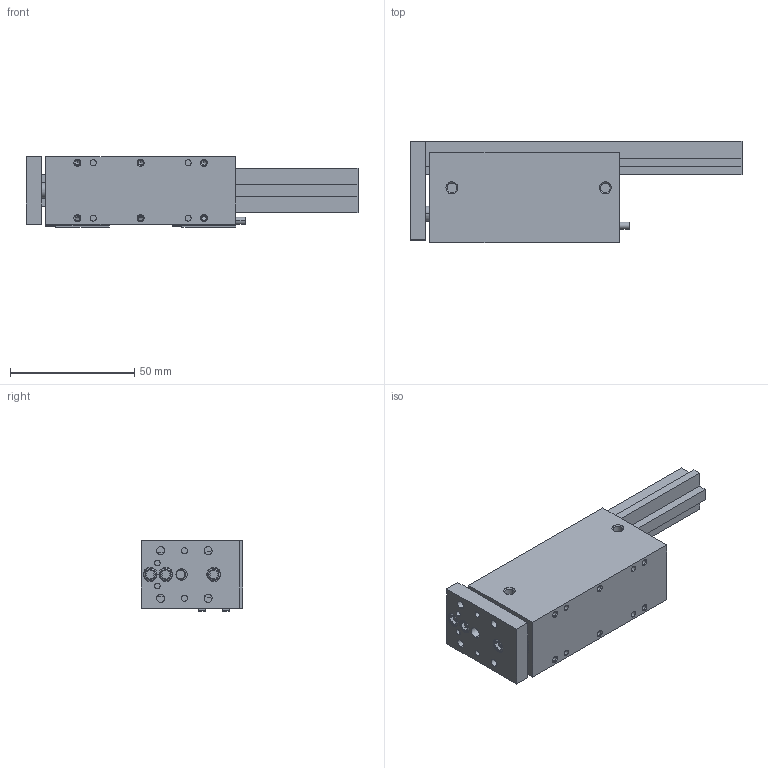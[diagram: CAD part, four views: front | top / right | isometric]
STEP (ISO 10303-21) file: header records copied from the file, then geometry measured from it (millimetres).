
FILE_DESCRIPTION (( 'STEP AP203' ), '1' );
FILE_NAME ('AGMS-2-4 RETRACTED in IN.STEP', '2014-11-06T16:10:06', ( 'setup' ), ( '' ), 'SwSTEP 2.0', 'SolidWorks 2013', '' );
FILE_SCHEMA (( 'CONFIG_CONTROL_DESIGN' ));
Length unit declared in the file: inch
Products named in the file (7): AGMS-2-4 RAIL; AGMS-2-4 TOOL PLATE; AGMS-2-4 PROD; AGMS-2-4 SENSOR; AGMS-2-4 RETRACTED in IN; AGMS-2-4 BODY; AGMS-2-4 CUSHION
Assembly tree (7 placements, depth 2):
  AGMS-2-4 RETRACTED in IN
    AGMS-2-4 BODY
    AGMS-2-4 CUSHION
    AGMS-2-4 RAIL
    AGMS-2-4 TOOL PLATE
    AGMS-2-4 PROD
    AGMS-2-4 SENSOR  x2
Bounding box: 133.35 x 40.84 x 28.2 mm (x, y, z)
Volume: 88853.8 mm3; surface area: 32697.9 mm2
Topology: 7 solids, 7 shells, 339 faces, 785 edges, 490 vertices
Faces by surface type: plane 135, cylinder 132, cone 64, torus 8
Entity records: 9727 total; most frequent: CARTESIAN_POINT 1636, DIRECTION 1634, ORIENTED_EDGE 1412, EDGE_CURVE 706, AXIS2_PLACEMENT_3D 620, VERTEX_POINT 450, LINE 394, VECTOR 394
